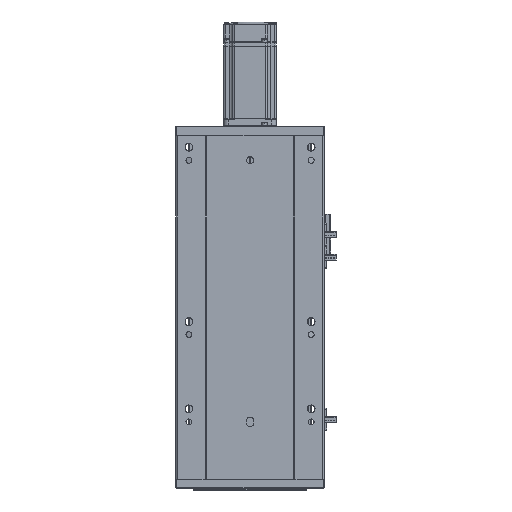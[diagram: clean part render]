
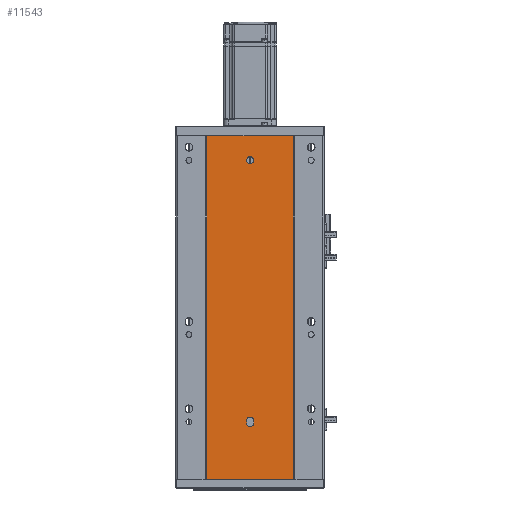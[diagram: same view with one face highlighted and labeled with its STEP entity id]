
A CAD part, front view. The second image highlights one B-rep face of the part: STEP entity #11543.
In plain terms, the highlighted planar face has unit normal (0, -1, 0).
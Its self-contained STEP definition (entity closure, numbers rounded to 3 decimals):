
#1353 = CARTESIAN_POINT ( 'NONE',  ( 86.97, 79.476, 394. ) ) ;
#1582 = LINE ( 'NONE', #15859, #6115 ) ;
#1715 = AXIS2_PLACEMENT_3D ( 'NONE', #39833, #44759, #59098 ) ;
#1779 = DIRECTION ( 'NONE',  ( 0., -1., 0. ) ) ;
#2079 = DIRECTION ( 'NONE',  ( 0., 0., 1. ) ) ;
#2303 = CARTESIAN_POINT ( 'NONE',  ( 140.47, 79.476, 67.5 ) ) ;
#2988 = AXIS2_PLACEMENT_3D ( 'NONE', #18365, #52299, #33218 ) ;
#4334 = EDGE_CURVE ( 'NONE', #56187, #31698, #36253, .T. ) ;
#4974 = CARTESIAN_POINT ( 'NONE',  ( 185.97, 79.476, 262.667 ) ) ;
#5492 = CARTESIAN_POINT ( 'NONE',  ( 86.97, 79.476, 394. ) ) ;
#6001 = LINE ( 'NONE', #13740, #56524 ) ;
#6020 = ORIENTED_EDGE ( 'NONE', *, *, #43128, .T. ) ;
#6115 = VECTOR ( 'NONE', #59823, 1000. ) ;
#8047 = CARTESIAN_POINT ( 'NONE',  ( 185.97, 79.476, 394. ) ) ;
#8144 = CARTESIAN_POINT ( 'NONE',  ( 136.47, 79.476, 60.5 ) ) ;
#8163 = CARTESIAN_POINT ( 'NONE',  ( 86.97, 79.476, 0. ) ) ;
#9166 = CARTESIAN_POINT ( 'NONE',  ( 185.97, 79.476, 0. ) ) ;
#9766 = ORIENTED_EDGE ( 'NONE', *, *, #17110, .F. ) ;
#10154 = CARTESIAN_POINT ( 'NONE',  ( 185.97, 79.476, 0. ) ) ;
#10197 = AXIS2_PLACEMENT_3D ( 'NONE', #31256, #1779, #60781 ) ;
#11094 = VERTEX_POINT ( 'NONE', #8163 ) ;
#11349 = FACE_OUTER_BOUND ( 'NONE', #48000, .T. ) ;
#11543 = ADVANCED_FACE ( 'NONE', ( #60187, #34964, #11349 ), #31340, .F. ) ;
#11813 = ORIENTED_EDGE ( 'NONE', *, *, #60216, .F. ) ;
#13105 = DIRECTION ( 'NONE',  ( 0., 0., -1. ) ) ;
#13106 = CARTESIAN_POINT ( 'NONE',  ( 140.47, 79.476, 67.5 ) ) ;
#13740 = CARTESIAN_POINT ( 'NONE',  ( 132.47, 79.476, 67.5 ) ) ;
#15859 = CARTESIAN_POINT ( 'NONE',  ( 0., 79.476, 0. ) ) ;
#16167 = EDGE_CURVE ( 'NONE', #18039, #33696, #6001, .T. ) ;
#16494 = ORIENTED_EDGE ( 'NONE', *, *, #18981, .F. ) ;
#16787 = ORIENTED_EDGE ( 'NONE', *, *, #50667, .F. ) ;
#17110 = EDGE_CURVE ( 'NONE', #33696, #52210, #17658, .T. ) ;
#17658 = CIRCLE ( 'NONE', #10197, 4. ) ;
#18039 = VERTEX_POINT ( 'NONE', #34065 ) ;
#18365 = CARTESIAN_POINT ( 'NONE',  ( 136.47, 79.476, 366. ) ) ;
#18627 = DIRECTION ( 'NONE',  ( 0., -1., 0. ) ) ;
#18837 = DIRECTION ( 'NONE',  ( 0., 0., -1. ) ) ;
#18981 = EDGE_CURVE ( 'NONE', #55899, #28468, #26519, .T. ) ;
#19409 = VERTEX_POINT ( 'NONE', #8047 ) ;
#21422 = AXIS2_PLACEMENT_3D ( 'NONE', #50420, #55336, #2079 ) ;
#22131 = CIRCLE ( 'NONE', #1715, 4. ) ;
#22324 = AXIS2_PLACEMENT_3D ( 'NONE', #37491, #22820, #51654 ) ;
#22545 = ORIENTED_EDGE ( 'NONE', *, *, #16167, .F. ) ;
#22820 = DIRECTION ( 'NONE',  ( 0., -1., 0. ) ) ;
#23913 = B_SPLINE_CURVE_WITH_KNOTS ( 'NONE', 3,
 ( #53943, #4974, #48818, #10154 ),
 .UNSPECIFIED., .F., .F.,
 ( 4, 4 ),
 ( 0., 1. ),
 .UNSPECIFIED. ) ;
#25310 = CARTESIAN_POINT ( 'NONE',  ( 140.47, 79.476, 64.5 ) ) ;
#26211 = ORIENTED_EDGE ( 'NONE', *, *, #32888, .F. ) ;
#26519 = CIRCLE ( 'NONE', #42555, 4. ) ;
#27094 = B_SPLINE_CURVE_WITH_KNOTS ( 'NONE', 3,
 ( #5492, #40108, #35613, #39903 ),
 .UNSPECIFIED., .F., .F.,
 ( 4, 4 ),
 ( 0., 1. ),
 .UNSPECIFIED. ) ;
#28468 = VERTEX_POINT ( 'NONE', #31178 ) ;
#28964 = CARTESIAN_POINT ( 'NONE',  ( 0., 79.476, 394. ) ) ;
#31178 = CARTESIAN_POINT ( 'NONE',  ( 136.47, 79.476, 370. ) ) ;
#31256 = CARTESIAN_POINT ( 'NONE',  ( 136.47, 79.476, 64.5 ) ) ;
#31340 = PLANE ( 'NONE',  #21422 ) ;
#31698 = VERTEX_POINT ( 'NONE', #13106 ) ;
#32888 = EDGE_CURVE ( 'NONE', #19409, #61548, #23913, .T. ) ;
#33218 = DIRECTION ( 'NONE',  ( 0., 0., -1. ) ) ;
#33444 = CARTESIAN_POINT ( 'NONE',  ( 136.47, 79.476, 362. ) ) ;
#33696 = VERTEX_POINT ( 'NONE', #35990 ) ;
#34065 = CARTESIAN_POINT ( 'NONE',  ( 132.47, 79.476, 67.5 ) ) ;
#34078 = DIRECTION ( 'NONE',  ( 1., 0., 0. ) ) ;
#34964 = FACE_BOUND ( 'NONE', #63258, .T. ) ;
#35613 = CARTESIAN_POINT ( 'NONE',  ( 86.97, 79.476, 131.333 ) ) ;
#35990 = CARTESIAN_POINT ( 'NONE',  ( 132.47, 79.476, 64.5 ) ) ;
#36253 = LINE ( 'NONE', #2303, #47023 ) ;
#36346 = EDGE_LOOP ( 'NONE', ( #9766, #22545, #59722, #38766, #47575 ) ) ;
#36467 = EDGE_CURVE ( 'NONE', #52210, #56187, #22131, .T. ) ;
#36801 = LINE ( 'NONE', #28964, #43687 ) ;
#37491 = CARTESIAN_POINT ( 'NONE',  ( 136.47, 79.476, 67.5 ) ) ;
#38766 = ORIENTED_EDGE ( 'NONE', *, *, #4334, .F. ) ;
#39833 = CARTESIAN_POINT ( 'NONE',  ( 136.47, 79.476, 64.5 ) ) ;
#39903 = CARTESIAN_POINT ( 'NONE',  ( 86.97, 79.476, 0. ) ) ;
#40108 = CARTESIAN_POINT ( 'NONE',  ( 86.97, 79.476, 262.667 ) ) ;
#40428 = CIRCLE ( 'NONE', #2988, 4. ) ;
#42555 = AXIS2_PLACEMENT_3D ( 'NONE', #61967, #18627, #18837 ) ;
#43128 = EDGE_CURVE ( 'NONE', #11094, #61548, #1582, .T. ) ;
#43687 = VECTOR ( 'NONE', #34078, 1000. ) ;
#44759 = DIRECTION ( 'NONE',  ( 0., -1., 0. ) ) ;
#45810 = EDGE_CURVE ( 'NONE', #58160, #11094, #27094, .T. ) ;
#46559 = DIRECTION ( 'NONE',  ( 0., 0., 1. ) ) ;
#47023 = VECTOR ( 'NONE', #46559, 1000. ) ;
#47109 = CIRCLE ( 'NONE', #22324, 4. ) ;
#47575 = ORIENTED_EDGE ( 'NONE', *, *, #36467, .F. ) ;
#48000 = EDGE_LOOP ( 'NONE', ( #6020, #26211, #11813, #49507 ) ) ;
#48818 = CARTESIAN_POINT ( 'NONE',  ( 185.97, 79.476, 131.333 ) ) ;
#49507 = ORIENTED_EDGE ( 'NONE', *, *, #45810, .T. ) ;
#50420 = CARTESIAN_POINT ( 'NONE',  ( 0., 79.476, 394. ) ) ;
#50667 = EDGE_CURVE ( 'NONE', #28468, #55899, #40428, .T. ) ;
#51654 = DIRECTION ( 'NONE',  ( 0., 0., -1. ) ) ;
#52210 = VERTEX_POINT ( 'NONE', #8144 ) ;
#52299 = DIRECTION ( 'NONE',  ( 0., -1., 0. ) ) ;
#52320 = EDGE_CURVE ( 'NONE', #31698, #18039, #47109, .T. ) ;
#53943 = CARTESIAN_POINT ( 'NONE',  ( 185.97, 79.476, 394. ) ) ;
#55336 = DIRECTION ( 'NONE',  ( 0., 1., 0. ) ) ;
#55899 = VERTEX_POINT ( 'NONE', #33444 ) ;
#56187 = VERTEX_POINT ( 'NONE', #25310 ) ;
#56524 = VECTOR ( 'NONE', #13105, 1000. ) ;
#58160 = VERTEX_POINT ( 'NONE', #1353 ) ;
#59098 = DIRECTION ( 'NONE',  ( 0., 0., -1. ) ) ;
#59722 = ORIENTED_EDGE ( 'NONE', *, *, #52320, .F. ) ;
#59823 = DIRECTION ( 'NONE',  ( 1., 0., 0. ) ) ;
#60187 = FACE_BOUND ( 'NONE', #36346, .T. ) ;
#60216 = EDGE_CURVE ( 'NONE', #58160, #19409, #36801, .T. ) ;
#60781 = DIRECTION ( 'NONE',  ( 0., 0., -1. ) ) ;
#61548 = VERTEX_POINT ( 'NONE', #9166 ) ;
#61967 = CARTESIAN_POINT ( 'NONE',  ( 136.47, 79.476, 366. ) ) ;
#63258 = EDGE_LOOP ( 'NONE', ( #16494, #16787 ) ) ;
